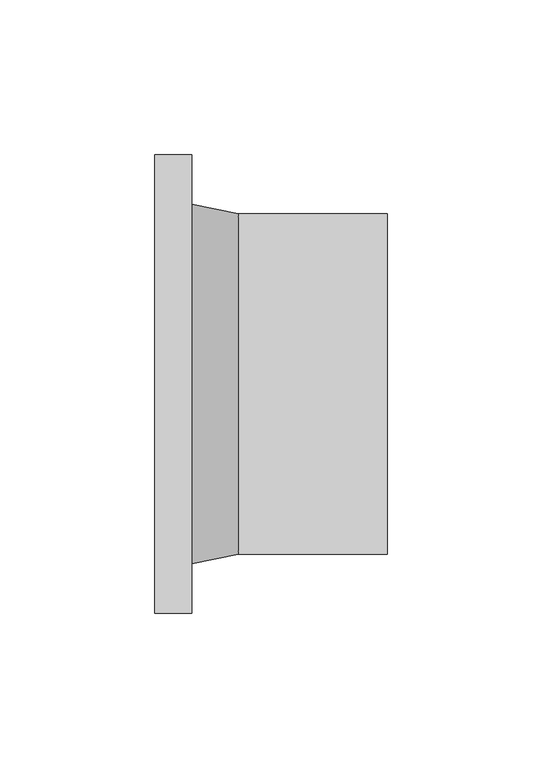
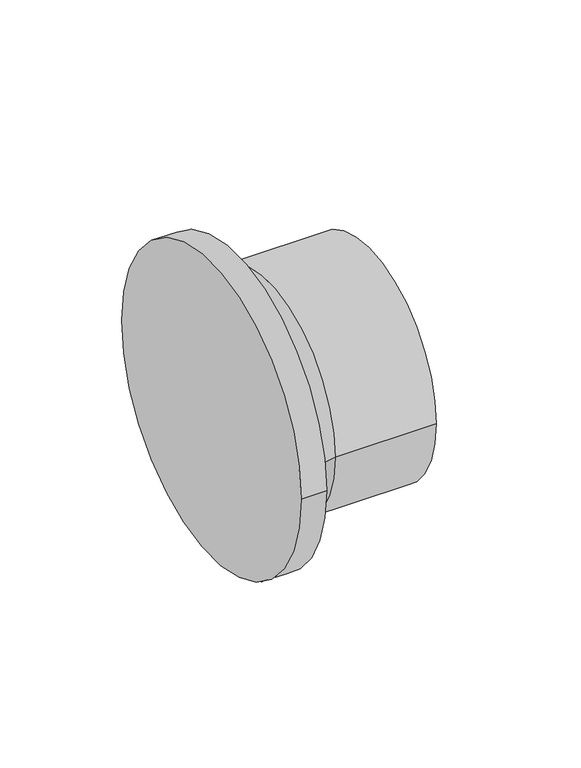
"""IFC4 building model written with IfcOpenShell, lengths in millimetres: pipe fitting geometry, NLRS_52_PIF_UN_PE voorlaskraag_geb : DN50-300 / ø50-315."""

from ifc_helpers import new_model, si_unit, frame, origin, place, context, project, spatial, polyline, circle_curve, source, transform, mapped, element, save
from ifc_brep_helpers import plane_surface, cylinder_surface, revolved_surface, advanced_brep


def pipe_fitting_18a78aad(model_context):
    return source(origin(), model_context, "Body", "AdvancedBrep", [
        advanced_brep(
        [(12.0, -74.0, 0.0), (12.0, 74.0, 0.0), (12.0, 58.0, 0.0), (12.0, -58.0, 0.0), (0.0, -74.0, 0.0), (0.0, 74.0, 0.0), (27.0, 55.0, 0.0), (27.0, -55.0, 0.0), (75.0, -55.0, 0.0), (75.0, 55.0, 0.0)],
        [
            (0, 1, circle_curve(frame((12.0, 0.0, 0.0), z_axis=(1.0, 0.0, 0.0), x_axis=(0.0, 1.0, 0.0)), 74.0)),
            (1, 0, circle_curve(frame((12.0, 0.0, 0.0), z_axis=(1.0, 0.0, 0.0), x_axis=(0.0, 1.0, 0.0)), 74.0)),
            (2, 3, circle_curve(frame((12.0, 0.0, 0.0), z_axis=(-1.0, 0.0, 0.0), x_axis=(0.0, -1.0, 0.0)), 58.0)),
            (3, 2, circle_curve(frame((12.0, 0.0, 0.0), z_axis=(-1.0, 0.0, 0.0), x_axis=(0.0, 1.0, 0.0)), 58.0)),
            (4, 5, circle_curve(frame((0.0, 0.0, 0.0), z_axis=(-1.0, 0.0, 0.0), x_axis=(0.0, 1.0, 0.0)), 74.0)),
            (5, 4, circle_curve(frame((0.0, 0.0, 0.0), z_axis=(-1.0, 0.0, 0.0), x_axis=(0.0, 1.0, 0.0)), 74.0)),
            (0, 4),
            (5, 1),
            (2, 6),
            (6, 7, circle_curve(frame((27.0, 0.0, 0.0), z_axis=(-1.0, 0.0, 0.0), x_axis=(0.0, -1.0, 0.0)), 55.0)),
            (7, 3),
            (7, 6, circle_curve(frame((27.0, 0.0, 0.0), z_axis=(-1.0, 0.0, 0.0), x_axis=(0.0, 1.0, 0.0)), 55.0)),
            (8, 9, circle_curve(frame((75.0, 0.0, 0.0), z_axis=(1.0, 0.0, 0.0), x_axis=(0.0, 1.0, 0.0)), 55.0)),
            (9, 8, circle_curve(frame((75.0, 0.0, 0.0), z_axis=(1.0, 0.0, 0.0), x_axis=(0.0, 1.0, 0.0)), 55.0)),
            (8, 7),
            (6, 9),
        ],
        [
            plane_surface(frame((12.0, 74.0, 0.0), z_axis=(1.0, 0.0, 0.0), x_axis=(0.0, 0.0, 1.0))),
            plane_surface(frame((0.0, 74.0, 0.0), z_axis=(-1.0, 0.0, 0.0), x_axis=(0.0, 0.0, -1.0))),
            cylinder_surface(frame((0.0, 0.0, 0.0), z_axis=(1.0, 0.0, 0.0), x_axis=(0.0, 1.0, 0.0)), 74.0),
            revolved_surface(polyline([(27.0, 55.0, 0.0), (12.0, 58.0, 0.0)]), (302.0, 0.0, 0.0), (-1.0, 0.0, 0.0)),
            plane_surface(frame((75.0, 55.0, 0.0), z_axis=(1.0, 0.0, 0.0), x_axis=(0.0, 0.0, 1.0))),
            cylinder_surface(frame((27.0, 0.0, 0.0), z_axis=(1.0, 0.0, 0.0), x_axis=(0.0, 1.0, 0.0)), 55.0),
        ],
        [
            (0, [[1, 2], [3, 4]]),
            (1, [[5, 6]]),
            (2, [[-1, 7, -6, 8]]),
            (2, [[-2, -8, -5, -7]]),
            (3, [[9, 10, 11, -3]]),
            (3, [[-9, -4, -11, 12]]),
            (4, [[13, 14]]),
            (5, [[-13, 15, -10, 16]]),
            (5, [[-14, -16, -12, -15]]),
        ],
    ),
    ])


if __name__ == "__main__":
    model = new_model("IFC4")
    model_context = context("Model", 3, world=origin())
    ifc_project = project(units=[si_unit("LENGTHUNIT", "METRE", prefix="MILLI")], contexts=[model_context])
    site = spatial("IfcSite", under=ifc_project)
    building = spatial("IfcBuilding", under=site)
    placement = place(None, origin())
    pipe_fitting_shape = pipe_fitting_18a78aad(model_context)
    element("IfcPipeFitting", 1, ObjectType="NLRS_52_PIF_UN_PE voorlaskraag_geb : DN50-300 / ø50-315", at=placement, inside=building, context=model_context, shape_type="MappedRepresentation", body=[
        mapped(pipe_fitting_shape, transform((0.0, 0.0, 0.0), x_axis=(1.0, 0.0, 0.0), y_axis=(0.0, 1.0, 0.0), z_axis=(0.0, 0.0, 1.0))),
    ])
    save(model, "model.ifc")
